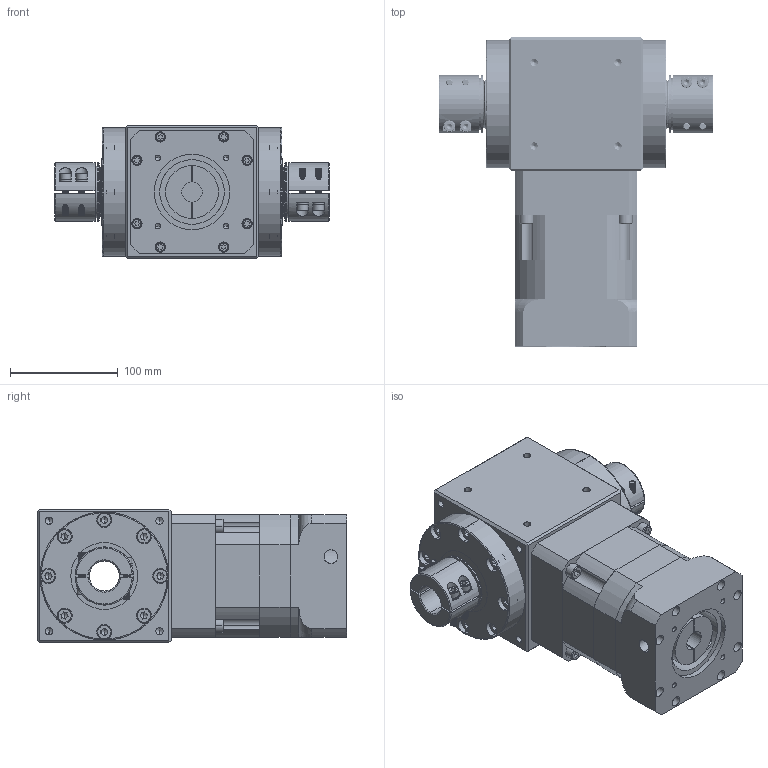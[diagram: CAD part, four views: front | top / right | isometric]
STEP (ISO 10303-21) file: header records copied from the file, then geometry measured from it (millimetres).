
FILE_DESCRIPTION (( 'STEP AP214' ), '1' );
FILE_NAME ('RAM120-L2-XX-D-19-70-90-M6_2019.STEP', '2019-04-09T09:47:12', ( 'Y' ), ( 'NCU' ), 'SwSTEP 2.0', 'SolidWorks 2016', '' );
FILE_SCHEMA (( 'AUTOMOTIVE_DESIGN' ));
Length unit declared in the file: millimetre
Products named in the file (1): RAM120-L2-XX-D-19-70-90-M6_2019
Bounding box: 255 x 286.8 x 124 mm (x, y, z)
Volume: 4244441.9 mm3; surface area: 405311.1 mm2
Topology: 5 solids, 21 shells, 1631 faces, 4256 edges, 2594 vertices
Faces by surface type: cylinder 662, plane 661, cone 150, torus 82, bspline 76
Entity records: 142714 total; most frequent: CARTESIAN_POINT 104224, ORIENTED_EDGE 8320, DIRECTION 7388, EDGE_CURVE 4160, AXIS2_PLACEMENT_3D 2788, VERTEX_POINT 2594, LINE 1812, VECTOR 1812
